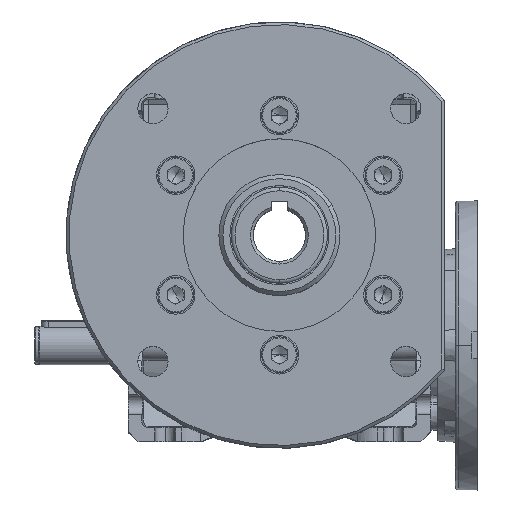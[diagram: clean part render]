
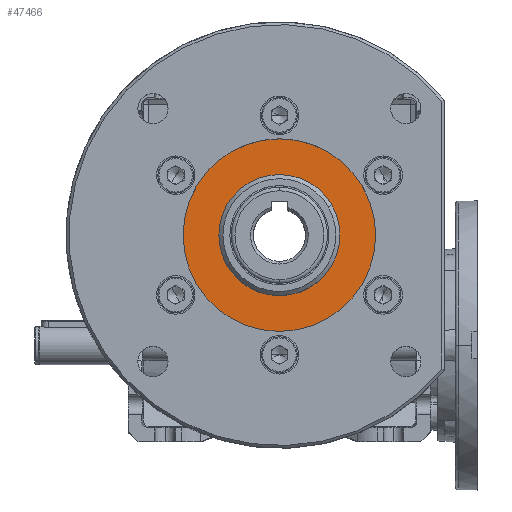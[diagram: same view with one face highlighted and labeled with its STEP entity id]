
A CAD part, top view. The second image highlights one B-rep face of the part: STEP entity #47466.
In plain terms, the highlighted planar face has unit normal (0, 0, 1).
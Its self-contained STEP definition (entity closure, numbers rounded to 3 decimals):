
#441 = CIRCLE ( 'NONE', #58754, 35. ) ;
#1044 = EDGE_LOOP ( 'NONE', ( #48982, #81594 ) ) ;
#1274 = CARTESIAN_POINT ( 'NONE',  ( -35., 0., 58. ) ) ;
#5001 = CARTESIAN_POINT ( 'NONE',  ( -19.053, -11., 58. ) ) ;
#5016 = EDGE_CURVE ( 'NONE', #11669, #68949, #441, .T. ) ;
#5720 = VERTEX_POINT ( 'NONE', #20316 ) ;
#6006 = CIRCLE ( 'NONE', #50588, 22. ) ;
#11669 = VERTEX_POINT ( 'NONE', #1274 ) ;
#14913 = DIRECTION ( 'NONE',  ( 0., 0., -1. ) ) ;
#15579 = DIRECTION ( 'NONE',  ( -0.866, -0.5, 0. ) ) ;
#16113 = FACE_BOUND ( 'NONE', #1044, .T. ) ;
#17121 = CARTESIAN_POINT ( 'NONE',  ( 0., 0., 58. ) ) ;
#20316 = CARTESIAN_POINT ( 'NONE',  ( 19.053, 11., 58. ) ) ;
#21102 = CARTESIAN_POINT ( 'NONE',  ( 0., 0., 58. ) ) ;
#21692 = VERTEX_POINT ( 'NONE', #5001 ) ;
#23084 = DIRECTION ( 'NONE',  ( 0., 0., -1. ) ) ;
#25236 = EDGE_CURVE ( 'NONE', #68949, #11669, #52795, .T. ) ;
#31536 = DIRECTION ( 'NONE',  ( 0., 0., -1. ) ) ;
#32764 = FACE_OUTER_BOUND ( 'NONE', #77378, .T. ) ;
#39048 = DIRECTION ( 'NONE',  ( -0.866, -0.5, 0. ) ) ;
#41690 = AXIS2_PLACEMENT_3D ( 'NONE', #79947, #23084, #15579 ) ;
#45186 = ORIENTED_EDGE ( 'NONE', *, *, #5016, .F. ) ;
#47466 = ADVANCED_FACE ( 'NONE', ( #32764, #16113 ), #81521, .F. ) ;
#48251 = DIRECTION ( 'NONE',  ( -0.866, -0.5, 0. ) ) ;
#48982 = ORIENTED_EDGE ( 'NONE', *, *, #73165, .T. ) ;
#50588 = AXIS2_PLACEMENT_3D ( 'NONE', #17121, #57355, #48251 ) ;
#52795 = CIRCLE ( 'NONE', #71622, 35. ) ;
#53296 = DIRECTION ( 'NONE',  ( 1., 0., 0. ) ) ;
#54595 = CARTESIAN_POINT ( 'NONE',  ( 0., 0., 58. ) ) ;
#57355 = DIRECTION ( 'NONE',  ( 0., 0., -1. ) ) ;
#58754 = AXIS2_PLACEMENT_3D ( 'NONE', #21102, #94017, #53296 ) ;
#64145 = CIRCLE ( 'NONE', #72732, 22. ) ;
#64781 = DIRECTION ( 'NONE',  ( 1., 0., 0. ) ) ;
#68949 = VERTEX_POINT ( 'NONE', #101508 ) ;
#71082 = EDGE_CURVE ( 'NONE', #5720, #21692, #64145, .T. ) ;
#71622 = AXIS2_PLACEMENT_3D ( 'NONE', #72845, #14913, #64781 ) ;
#72732 = AXIS2_PLACEMENT_3D ( 'NONE', #54595, #31536, #39048 ) ;
#72845 = CARTESIAN_POINT ( 'NONE',  ( 0., 0., 58. ) ) ;
#73165 = EDGE_CURVE ( 'NONE', #21692, #5720, #6006, .T. ) ;
#77378 = EDGE_LOOP ( 'NONE', ( #99542, #45186 ) ) ;
#79947 = CARTESIAN_POINT ( 'NONE',  ( -11., 19.053, 58. ) ) ;
#81521 = PLANE ( 'NONE',  #41690 ) ;
#81594 = ORIENTED_EDGE ( 'NONE', *, *, #71082, .T. ) ;
#94017 = DIRECTION ( 'NONE',  ( 0., 0., -1. ) ) ;
#99542 = ORIENTED_EDGE ( 'NONE', *, *, #25236, .F. ) ;
#101508 = CARTESIAN_POINT ( 'NONE',  ( 35., 0., 58. ) ) ;
